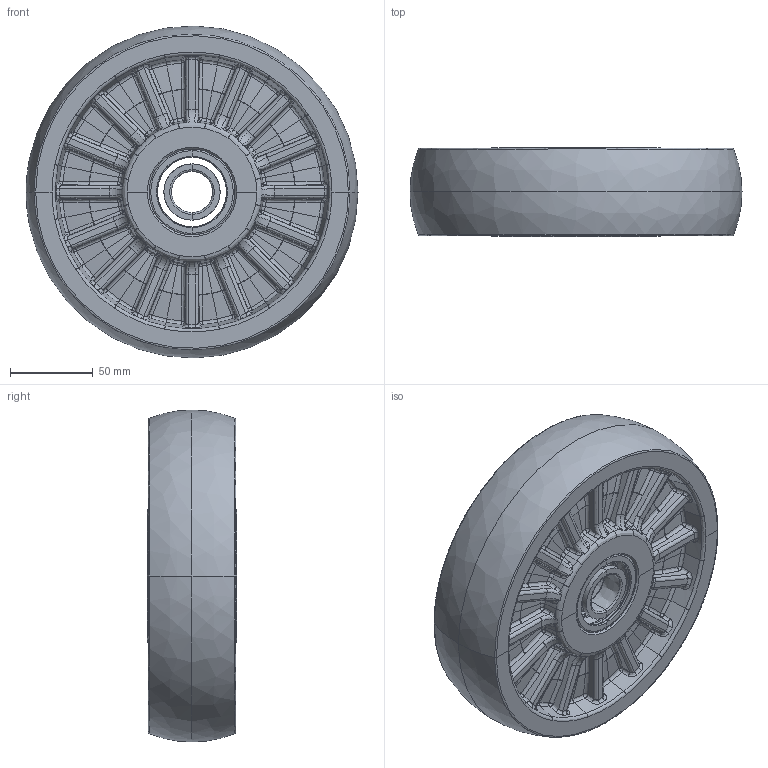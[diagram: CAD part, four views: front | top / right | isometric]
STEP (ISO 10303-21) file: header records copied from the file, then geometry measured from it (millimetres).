
FILE_DESCRIPTION (( 'STEP AP214' ), '1' );
FILE_NAME ('HE-200W.STEP', '2024-01-25T12:00:02', ( 'sakai' ), ( 'Hewlett-Packard' ), 'SwSTEP 2.0', 'SolidWorks 2010', '' );
FILE_SCHEMA (( 'AUTOMOTIVE_DESIGN' ));
Length unit declared in the file: millimetre
Products named in the file (3): HE-200W-10; HE-200W-11; HE-200W
Assembly tree (2 placements, depth 2):
  HE-200W
    HE-200W-10
    HE-200W-11
Bounding box: 201 x 54 x 200.98 mm (x, y, z)
Volume: 1239434.2 mm3; surface area: 139934.5 mm2
Topology: 5 solids, 5 shells, 1552 faces, 3668 edges, 1988 vertices
Faces by surface type: bspline 1448, plane 104
Entity records: 135831 total; most frequent: CARTESIAN_POINT 111487, ORIENTED_EDGE 7080, EDGE_CURVE 3540, B_SPLINE_CURVE_WITH_KNOTS 3396, VERTEX_POINT 1988, ADVANCED_FACE 1552, EDGE_LOOP 1552, FACE_OUTER_BOUND 1552
